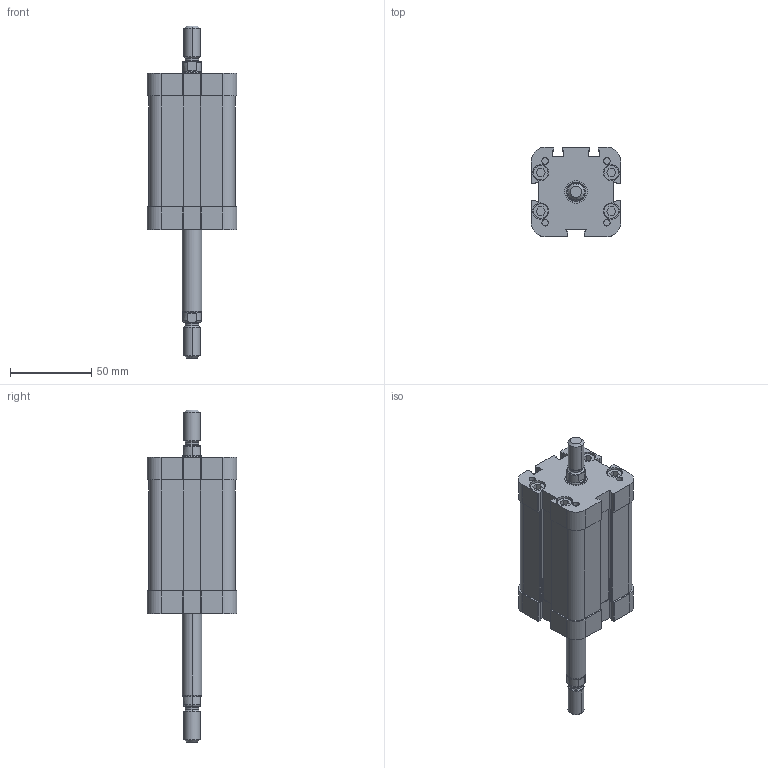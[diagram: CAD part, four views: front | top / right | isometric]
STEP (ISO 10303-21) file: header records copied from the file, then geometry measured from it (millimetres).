
FILE_DESCRIPTION((''),'2;1');
FILE_NAME('P31M40400050.stp','2010-02-28T16:51:03',('B. Petkovic 2010'),('AZ PNEUMATICA S.r.l.'),'Mechanical Desktop 2006','Mechanical Desktop 2006','Via Marco Biagi 6, I-20020 Misinto(MI) Italy, azpneu@tin.it');
FILE_SCHEMA(('CONFIG_CONTROL_DESIGN'));
Length unit declared in the file: millimetre
Products named in the file (2): P31M40400050; COMPACT CILINDRI
Assembly tree (1 placements, depth 2):
  P31M40400050
    COMPACT CILINDRI
Bounding box: 55 x 55 x 204.2 mm (x, y, z)
Volume: 257611.9 mm3; surface area: 39046.6 mm2
Topology: 1 solids, 1 shells, 437 faces, 1127 edges, 733 vertices
Faces by surface type: plane 249, cylinder 162, cone 12, bspline 8, torus 6
Entity records: 13901 total; most frequent: CARTESIAN_POINT 2779, DIRECTION 2398, ORIENTED_EDGE 2254, EDGE_CURVE 1127, AXIS2_PLACEMENT_3D 846, VERTEX_POINT 733, VECTOR 706, LINE 706
